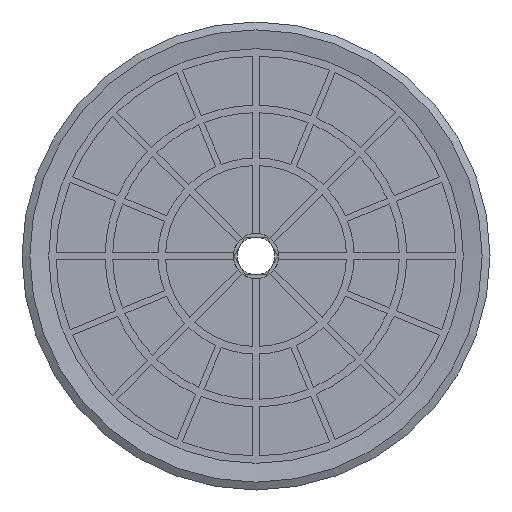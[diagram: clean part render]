
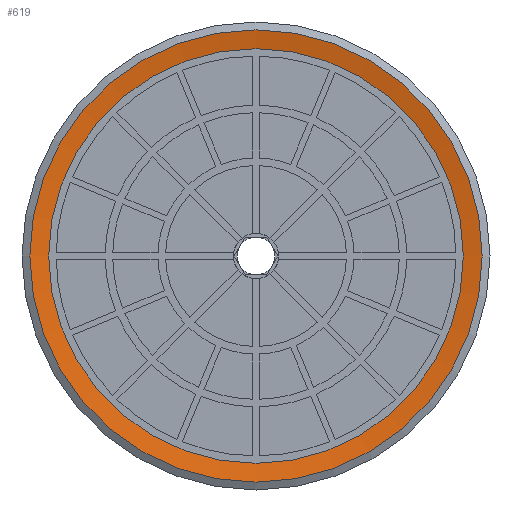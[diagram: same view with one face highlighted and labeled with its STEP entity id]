
A CAD part, front view. The second image highlights one B-rep face of the part: STEP entity #619.
In plain terms, the highlighted conical face has half-angle 80 degrees and reference radius 15 mm.
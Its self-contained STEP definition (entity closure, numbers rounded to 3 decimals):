
#619=ADVANCED_FACE('',(#1245,#1246),#1247,.F.);
#1245=FACE_BOUND('',#1971,.T.);
#1246=FACE_OUTER_BOUND('',#1972,.T.);
#1247=CONICAL_SURFACE('',#1973,15.0,1.396);
#1971=EDGE_LOOP('',(#3867));
#1972=EDGE_LOOP('',(#3868));
#1973=AXIS2_PLACEMENT_3D('',#3869,#3870,#3871);
#3867=ORIENTED_EDGE('',*,*,#4867,.T.);
#3868=ORIENTED_EDGE('',*,*,#5145,.F.);
#3869=CARTESIAN_POINT('',(0.0,0.,0.));
#3870=DIRECTION('',(0.0,0.,-1.0));
#3871=DIRECTION('',(0.0,1.0,0.));
#4867=EDGE_CURVE('',#5840,#5840,#5841,.T.);
#5145=EDGE_CURVE('',#6301,#6301,#6302,.T.);
#5840=VERTEX_POINT('',#7587);
#5841=CIRCLE('',#7588,13.75);
#6301=VERTEX_POINT('',#8220);
#6302=CIRCLE('',#8221,15.0);
#7587=CARTESIAN_POINT('',(0.0,-13.75,0.22));
#7588=AXIS2_PLACEMENT_3D('',#8908,#8909,#8910);
#8220=CARTESIAN_POINT('',(0.0,-15.0,0.));
#8221=AXIS2_PLACEMENT_3D('',#9398,#9399,#9400);
#8908=CARTESIAN_POINT('',(0.0,0.,0.22));
#8909=DIRECTION('',(0.0,0.,1.0));
#8910=DIRECTION('',(0.0,-1.0,0.));
#9398=CARTESIAN_POINT('',(0.0,0.,0.));
#9399=DIRECTION('',(0.0,0.,1.0));
#9400=DIRECTION('',(0.0,-1.0,0.));
